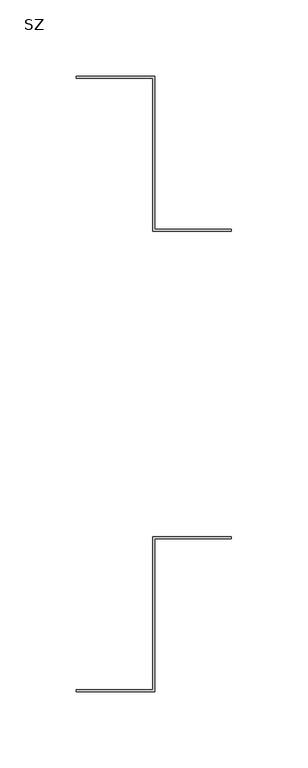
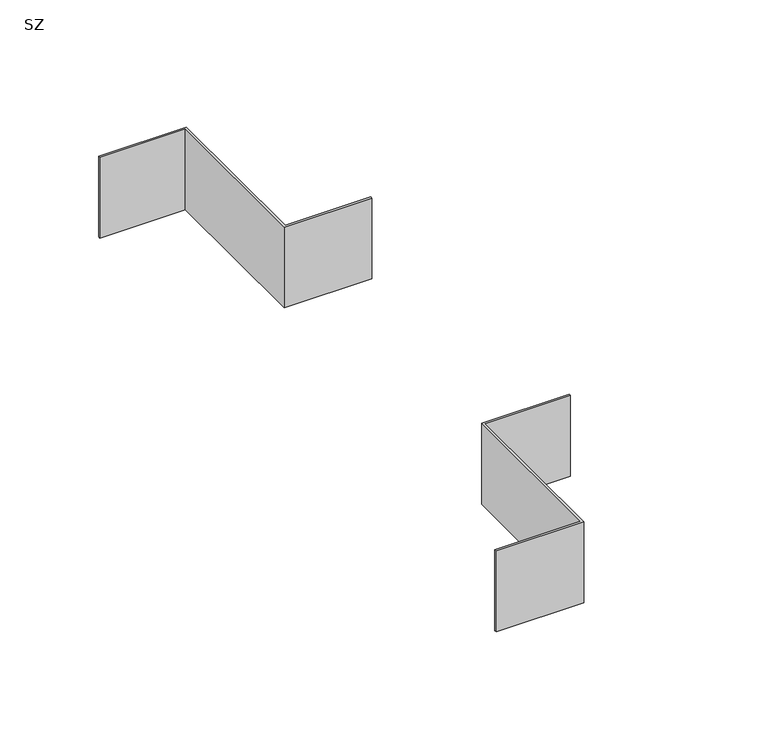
"""IFC4 building model written with IfcOpenShell, lengths in millimetres: cable carrier fitting geometry, IEK_Лестничный_Переход по ширине : SZ."""

from ifc_helpers import new_model, si_unit, frame, origin, place, context, project, spatial, polyline, outline, extrude, source, transform, mapped, element, save


def sz_a71fa306(model_context):
    return source(origin(), model_context, "Body", "SweptSolid", [
        extrude(outline(polyline([(51.2, -100.0), (51.2, -101.2), (1.2, -101.2), (1.2, -201.2), (-50.0, -201.2), (-50.0, -200.0), (0.0, -200.0), (0.0, -100.0), (51.2, -100.0)])), frame((0.0, 0.0, -25.0), z_axis=(0.0, 0.0, 1.0), x_axis=(1.0, 0.0, 0.0)), (0.0, 0.0, 1.0), 50.0),
        extrude(outline(polyline([(1.2, 201.2), (1.2, 101.2), (51.2, 101.2), (51.2, 100.0), (0.0, 100.0), (0.0, 200.0), (-50.0, 200.0), (-50.0, 201.2), (1.2, 201.2)])), frame((0.0, 0.0, -25.0), z_axis=(0.0, 0.0, 1.0), x_axis=(1.0, 0.0, 0.0)), (0.0, 0.0, 1.0), 50.0),
    ])


if __name__ == "__main__":
    model = new_model("IFC4")
    model_context = context("Model", 3, world=origin())
    ifc_project = project(units=[si_unit("LENGTHUNIT", "METRE", prefix="MILLI")], contexts=[model_context])
    site = spatial("IfcSite", under=ifc_project)
    building = spatial("IfcBuilding", under=site)
    placement = place(None, origin())
    sz_shape = sz_a71fa306(model_context)
    element("IfcCableCarrierFitting", 1, ObjectType="IEK_Лестничный_Переход по ширине : SZ", at=placement, inside=building, context=model_context, shape_type="MappedRepresentation", body=[
        mapped(sz_shape, transform((0.0, 0.0, 0.0), x_axis=(1.0, 0.0, 0.0), y_axis=(0.0, 1.0, 0.0), z_axis=(0.0, 0.0, 1.0))),
    ])
    save(model, "model.ifc")
